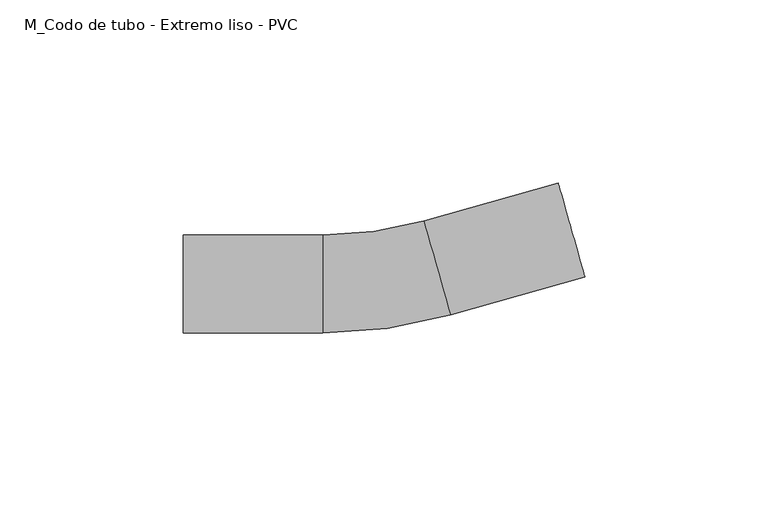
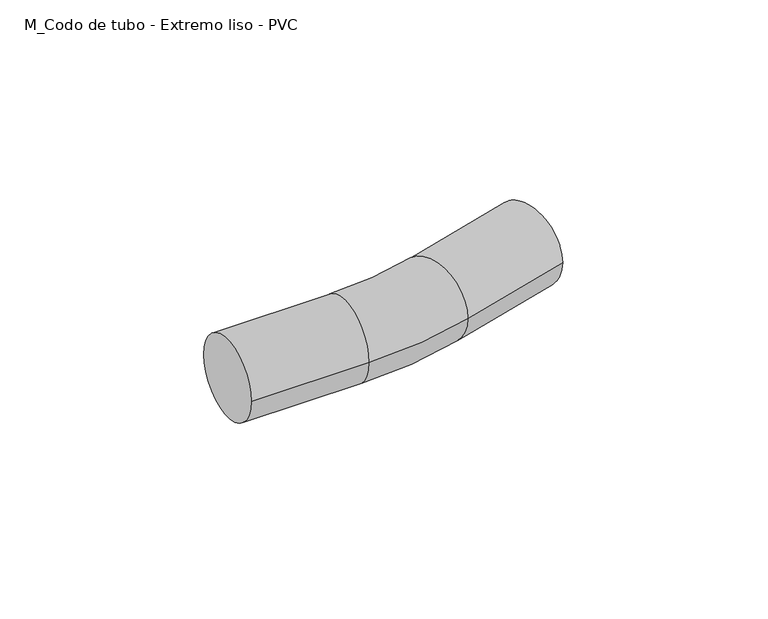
"""IFC4 building model written with IfcOpenShell, lengths in millimetres: cable carrier fitting geometry, M_Codo de tubo - Extremo liso - PVC : CODO POTENCIA."""

from ifc_helpers import new_model, si_unit, point, frame, origin, place, context, project, spatial, circle_curve, ellipse_curve, trimmed, source, transform, mapped, element, save
from ifc_brep_helpers import plane_surface, cylinder_surface, revolved_surface, advanced_brep


def m_codo_de_tubo_extremo_liso_pvc_f2a7097b(model_context):
    return source(origin(), model_context, "Body", "AdvancedBrep", [
        advanced_brep(
        [(-54.0005781, -13.335, 0.0), (-54.0005781, 13.335, 0.0), (-15.9005781, -13.335, 0.0), (-15.9005781, 13.335, 0.0), (11.6571371, 17.1686273, 0.0), (18.9365335, -8.4887164, 0.0), (55.5898817, 1.9104214, 0.0), (48.3104853, 27.5677651, 0.0)],
        [
            (0, 1, circle_curve(frame((-54.0005781, 0.0, 0.0), z_axis=(-1.0, 0.0, 0.0), x_axis=(0.0, 1.0, 0.0)), 13.335)),
            (1, 0, circle_curve(frame((-54.0005781, 0.0, 0.0), z_axis=(-1.0, 0.0, 0.0), x_axis=(0.0, 1.0, 0.0)), 13.335)),
            (0, 2),
            (2, 3, circle_curve(frame((-15.9005781, 0.0, 0.0), z_axis=(-1.0, 0.0, 0.0), x_axis=(0.0, 1.0, 0.0)), 13.335)),
            (3, 1),
            (3, 2, circle_curve(frame((-15.9005781, 0.0, 0.0), z_axis=(-1.0, 0.0, 0.0), x_axis=(0.0, 1.0, 0.0)), 13.335)),
            (4, 3, circle_curve(frame((-15.9005781, 114.3, 0.0), z_axis=(0.0, 0.0, -1.0), x_axis=(0.0, -1.0, 0.0)), 100.965)),
            (2, 5, circle_curve(frame((-15.9005781, 114.3, 0.0), z_axis=(0.0, 0.0, 1.0), x_axis=(0.0, -1.0, 0.0)), 127.635)),
            (5, 4, circle_curve(frame((15.2968353, 4.3399554, 0.0), z_axis=(-0.9620301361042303, -0.2729432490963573, 0.0), x_axis=(-0.2729432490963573, 0.9620301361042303, 0.0)), 13.335)),
            (4, 5, circle_curve(frame((15.2968353, 4.3399554, 0.0), z_axis=(-0.9620301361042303, -0.27294324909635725, 0.0), x_axis=(-0.27294324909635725, 0.9620301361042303, 0.0)), 13.335)),
            (6, 7, circle_curve(frame((51.9501835, 14.7390932, 0.0), z_axis=(0.9620301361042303, 0.27294324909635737, 0.0), x_axis=(-0.27294324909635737, 0.9620301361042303, 0.0)), 13.335)),
            (7, 6, circle_curve(frame((51.9501835, 14.7390932, 0.0), z_axis=(0.9620301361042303, 0.27294324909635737, 0.0), x_axis=(-0.27294324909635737, 0.9620301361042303, 0.0)), 13.335)),
            (5, 6),
            (7, 4),
        ],
        [
            plane_surface(frame((-54.0005781, 0.0, 0.0), z_axis=(-1.0, 0.0, 0.0), x_axis=(0.0, 0.0, 1.0))),
            cylinder_surface(frame((-54.0005781, 0.0, 0.0), z_axis=(-1.0, 0.0, 0.0), x_axis=(0.0, 1.0, 0.0)), 13.335),
            revolved_surface(trimmed(ellipse_curve(frame((-15.9005781, 0.0, 0.0), z_axis=(-1.0, 0.0, 0.0), x_axis=(0.0, 1.0, 0.0)), 13.335, 13.335), [point((-15.9005781, -13.335, 0.0))], [point((-15.9005781, 13.335, 0.0))], True, "CARTESIAN"), (-15.9005781, 114.3, 0.0), (0.0, 0.0, 1.0)),
            revolved_surface(trimmed(ellipse_curve(frame((-15.9005781, 0.0, 0.0), z_axis=(-1.0, 0.0, 0.0), x_axis=(0.0, 1.0, 0.0)), 13.335, 13.335), [point((-15.9005781, 13.335, 0.0))], [point((-15.9005781, -13.335, 0.0))], True, "CARTESIAN"), (-15.9005781, 114.3, 0.0), (0.0, 0.0, 1.0)),
            plane_surface(frame((51.9501835, 14.7390932, 0.0), z_axis=(0.9620301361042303, 0.27294324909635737, 0.0), x_axis=(0.0, 0.0, 1.0))),
            cylinder_surface(frame((15.2968353, 4.3399554, 0.0), z_axis=(-0.9620301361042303, -0.27294324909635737, 0.0), x_axis=(-0.27294324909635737, 0.9620301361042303, 0.0)), 13.335),
        ],
        [
            (0, [[1, 2]]),
            (1, [[-1, 3, 4, 5]]),
            (1, [[-2, -5, 6, -3]]),
            (2, [[7, -4, 8, 9]]),
            (3, [[-8, -6, -7, 10]]),
            (4, [[11, 12]]),
            (5, [[-9, 13, -12, 14]]),
            (5, [[-10, -14, -11, -13]]),
        ],
    ),
    ])


if __name__ == "__main__":
    model = new_model("IFC4")
    model_context = context("Model", 3, world=origin())
    ifc_project = project(units=[si_unit("LENGTHUNIT", "METRE", prefix="MILLI")], contexts=[model_context])
    site = spatial("IfcSite", under=ifc_project)
    building = spatial("IfcBuilding", under=site)
    placement = place(None, origin())
    m_codo_de_tubo_extremo_liso_pvc_shape = m_codo_de_tubo_extremo_liso_pvc_f2a7097b(model_context)
    element("IfcCableCarrierFitting", 1, ObjectType="M_Codo de tubo - Extremo liso - PVC : CODO POTENCIA", at=placement, inside=building, context=model_context, shape_type="MappedRepresentation", body=[
        mapped(m_codo_de_tubo_extremo_liso_pvc_shape, transform((0.0, 0.0, 0.0), x_axis=(1.0, 0.0, 0.0), y_axis=(0.0, 1.0, 0.0), z_axis=(0.0, 0.0, 1.0))),
    ])
    save(model, "model.ifc")
